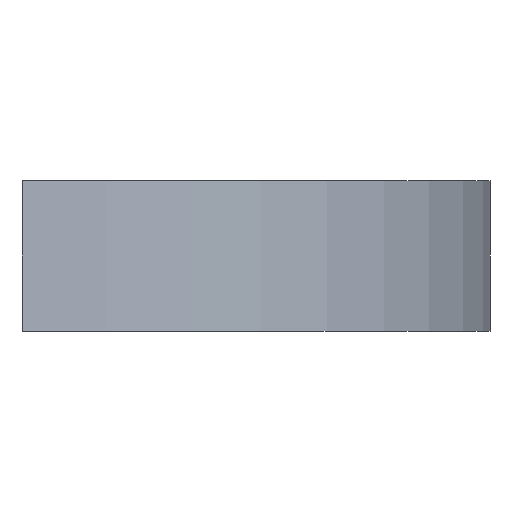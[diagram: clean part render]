
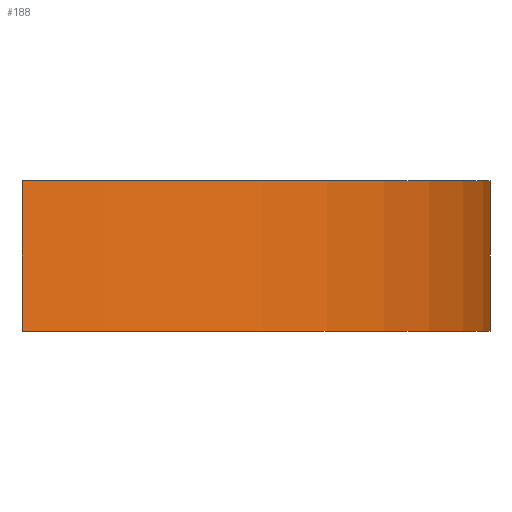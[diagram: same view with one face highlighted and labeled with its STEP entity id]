
A CAD part, front view. The second image highlights one B-rep face of the part: STEP entity #188.
In plain terms, the highlighted cylindrical face has radius 36 mm (diameter 72 mm), a partial arc.
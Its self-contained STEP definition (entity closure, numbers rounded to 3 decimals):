
#24 = CARTESIAN_POINT ( 'NONE',  ( 0., 0., 5. ) ) ;
#25 = CIRCLE ( 'NONE', #351, 36. ) ;
#47 = DIRECTION ( 'NONE',  ( 1., 0., 0. ) ) ;
#67 = CARTESIAN_POINT ( 'NONE',  ( 0., 0., 10. ) ) ;
#96 = LINE ( 'NONE', #595, #152 ) ;
#104 = CIRCLE ( 'NONE', #340, 36. ) ;
#122 = EDGE_CURVE ( 'NONE', #458, #469, #96, .T. ) ;
#125 = CARTESIAN_POINT ( 'NONE',  ( 36., 0., 0. ) ) ;
#127 = DIRECTION ( 'NONE',  ( 1., 0., 0. ) ) ;
#135 = LINE ( 'NONE', #572, #385 ) ;
#137 = EDGE_CURVE ( 'NONE', #620, #469, #25, .T. ) ;
#148 = CARTESIAN_POINT ( 'NONE',  ( 0., 0., 0. ) ) ;
#152 = VECTOR ( 'NONE', #643, 1000. ) ;
#188 = ADVANCED_FACE ( 'NONE', ( #417 ), #448, .T. ) ;
#213 = CARTESIAN_POINT ( 'NONE',  ( 5., -35.651, 10. ) ) ;
#277 = DIRECTION ( 'NONE',  ( 0., 0., 1. ) ) ;
#292 = CARTESIAN_POINT ( 'NONE',  ( 36., 0., 10. ) ) ;
#293 = EDGE_CURVE ( 'NONE', #360, #458, #104, .T. ) ;
#300 = DIRECTION ( 'NONE',  ( 0., 0., 1. ) ) ;
#340 = AXIS2_PLACEMENT_3D ( 'NONE', #148, #300, #47 ) ;
#351 = AXIS2_PLACEMENT_3D ( 'NONE', #67, #434, #127 ) ;
#360 = VERTEX_POINT ( 'NONE', #416 ) ;
#374 = ORIENTED_EDGE ( 'NONE', *, *, #485, .F. ) ;
#385 = VECTOR ( 'NONE', #616, 1000. ) ;
#416 = CARTESIAN_POINT ( 'NONE',  ( 5., -35.651, 0. ) ) ;
#417 = FACE_OUTER_BOUND ( 'NONE', #576, .T. ) ;
#434 = DIRECTION ( 'NONE',  ( 0., 0., 1. ) ) ;
#448 = CYLINDRICAL_SURFACE ( 'NONE', #608, 36. ) ;
#458 = VERTEX_POINT ( 'NONE', #125 ) ;
#469 = VERTEX_POINT ( 'NONE', #292 ) ;
#485 = EDGE_CURVE ( 'NONE', #360, #620, #135, .T. ) ;
#504 = ORIENTED_EDGE ( 'NONE', *, *, #122, .T. ) ;
#546 = DIRECTION ( 'NONE',  ( 1., 0., 0. ) ) ;
#572 = CARTESIAN_POINT ( 'NONE',  ( 5., -35.651, 5. ) ) ;
#574 = ORIENTED_EDGE ( 'NONE', *, *, #293, .T. ) ;
#576 = EDGE_LOOP ( 'NONE', ( #374, #574, #504, #617 ) ) ;
#595 = CARTESIAN_POINT ( 'NONE',  ( 36., 0., 5. ) ) ;
#608 = AXIS2_PLACEMENT_3D ( 'NONE', #24, #277, #546 ) ;
#616 = DIRECTION ( 'NONE',  ( 0., 0., 1. ) ) ;
#617 = ORIENTED_EDGE ( 'NONE', *, *, #137, .F. ) ;
#620 = VERTEX_POINT ( 'NONE', #213 ) ;
#643 = DIRECTION ( 'NONE',  ( 0., 0., 1. ) ) ;
